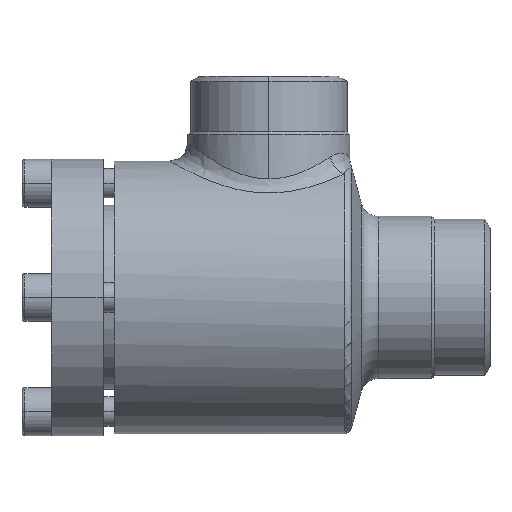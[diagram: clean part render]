
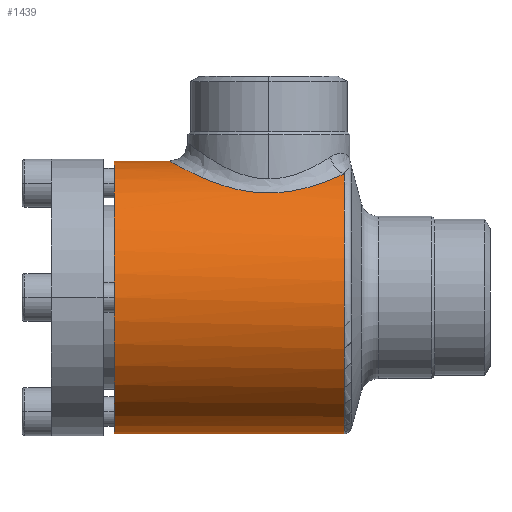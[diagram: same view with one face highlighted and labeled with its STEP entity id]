
A CAD part, left-side view. The second image highlights one B-rep face of the part: STEP entity #1439.
In plain terms, the highlighted cylindrical face has radius 37 mm (diameter 74 mm), a partial arc.
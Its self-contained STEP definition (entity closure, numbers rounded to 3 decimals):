
#35 = VERTEX_POINT ( 'NONE', #5521 ) ;
#451 = ORIENTED_EDGE ( 'NONE', *, *, #3434, .F. ) ;
#1221 = EDGE_LOOP ( 'NONE', ( #451, #8775, #2946, #2060, #1624 ) ) ;
#1439 = ADVANCED_FACE ( 'NONE', ( #9274 ), #9275, .T. ) ;
#1624 = ORIENTED_EDGE ( 'NONE', *, *, #5090, .F. ) ;
#2060 = ORIENTED_EDGE ( 'NONE', *, *, #11755, .T. ) ;
#2610 = EDGE_CURVE ( 'NONE', #8264, #11556, #5012, .T. ) ;
#2946 = ORIENTED_EDGE ( 'NONE', *, *, #2610, .T. ) ;
#3229 = VERTEX_POINT ( 'NONE', #6336 ) ;
#3434 = EDGE_CURVE ( 'NONE', #5914, #3229, #9108, .T. ) ;
#5012 = B_SPLINE_CURVE_WITH_KNOTS ( 'NONE', 3,
 ( #5013, #5014, #5015, #5016, #5017, #5020, #5021, #5022, #5023, #5024, #5025, #5026, #5027, #5028, #5029, #5030, #5031, #5032, #5033, #5034, #5035, #5039, #5040, #5041, #5042, #5043, #5044, #5045, #5046, #5047, #5048, #5049, #5050, #5051, #5052, #5053, #5054, #5058, #5059, #5060, #5061, #5062, #5063, #5064, #5065, #5066, #5067, #5068 ),
 .UNSPECIFIED., .F., .F.,
 ( 4, 2, 2, 2, 2, 2, 2, 2, 2, 2, 2, 2, 2, 2, 2, 2, 2, 2, 2, 2, 2, 2, 2, 4 ),
 ( 0., 0.004, 0.008, 0.01, 0.012, 0.016, 0.018, 0.02, 0.024, 0.026, 0.028, 0.03, 0.032, 0.036, 0.04, 0.042, 0.044, 0.048, 0.05, 0.052, 0.056, 0.058, 0.06, 0.064 ),
 .UNSPECIFIED. ) ;
#5013 = CARTESIAN_POINT ( 'NONE',  ( -15.535, -62.446, 33.581 ) ) ;
#5014 = CARTESIAN_POINT ( 'NONE',  ( -16.452, -61.548, 33.157 ) ) ;
#5015 = CARTESIAN_POINT ( 'NONE',  ( -17.286, -60.594, 32.725 ) ) ;
#5016 = CARTESIAN_POINT ( 'NONE',  ( -18.811, -58.577, 31.873 ) ) ;
#5017 = CARTESIAN_POINT ( 'NONE',  ( -19.502, -57.514, 31.452 ) ) ;
#5020 = CARTESIAN_POINT ( 'NONE',  ( -20.434, -55.835, 30.848 ) ) ;
#5021 = CARTESIAN_POINT ( 'NONE',  ( -20.728, -55.259, 30.65 ) ) ;
#5022 = CARTESIAN_POINT ( 'NONE',  ( -21.277, -54.088, 30.272 ) ) ;
#5023 = CARTESIAN_POINT ( 'NONE',  ( -21.531, -53.494, 30.092 ) ) ;
#5024 = CARTESIAN_POINT ( 'NONE',  ( -22.233, -51.685, 29.581 ) ) ;
#5025 = CARTESIAN_POINT ( 'NONE',  ( -22.624, -50.442, 29.28 ) ) ;
#5026 = CARTESIAN_POINT ( 'NONE',  ( -23.09, -48.518, 28.912 ) ) ;
#5027 = CARTESIAN_POINT ( 'NONE',  ( -23.225, -47.864, 28.803 ) ) ;
#5028 = CARTESIAN_POINT ( 'NONE',  ( -23.453, -46.548, 28.618 ) ) ;
#5029 = CARTESIAN_POINT ( 'NONE',  ( -23.545, -45.887, 28.542 ) ) ;
#5030 = CARTESIAN_POINT ( 'NONE',  ( -23.756, -43.897, 28.367 ) ) ;
#5031 = CARTESIAN_POINT ( 'NONE',  ( -23.81, -42.56, 28.321 ) ) ;
#5032 = CARTESIAN_POINT ( 'NONE',  ( -23.758, -40.538, 28.365 ) ) ;
#5033 = CARTESIAN_POINT ( 'NONE',  ( -23.718, -39.862, 28.398 ) ) ;
#5034 = CARTESIAN_POINT ( 'NONE',  ( -23.596, -38.528, 28.5 ) ) ;
#5035 = CARTESIAN_POINT ( 'NONE',  ( -23.513, -37.867, 28.569 ) ) ;
#5039 = CARTESIAN_POINT ( 'NONE',  ( -23.304, -36.555, 28.739 ) ) ;
#5040 = CARTESIAN_POINT ( 'NONE',  ( -23.179, -35.905, 28.84 ) ) ;
#5041 = CARTESIAN_POINT ( 'NONE',  ( -22.886, -34.615, 29.073 ) ) ;
#5042 = CARTESIAN_POINT ( 'NONE',  ( -22.718, -33.974, 29.205 ) ) ;
#5043 = CARTESIAN_POINT ( 'NONE',  ( -22.153, -32.08, 29.639 ) ) ;
#5044 = CARTESIAN_POINT ( 'NONE',  ( -21.7, -30.866, 29.975 ) ) ;
#5045 = CARTESIAN_POINT ( 'NONE',  ( -20.645, -28.526, 30.712 ) ) ;
#5046 = CARTESIAN_POINT ( 'NONE',  ( -20.043, -27.4, 31.112 ) ) ;
#5047 = CARTESIAN_POINT ( 'NONE',  ( -19.02, -25.773, 31.74 ) ) ;
#5048 = CARTESIAN_POINT ( 'NONE',  ( -18.66, -25.243, 31.953 ) ) ;
#5049 = CARTESIAN_POINT ( 'NONE',  ( -17.908, -24.217, 32.381 ) ) ;
#5050 = CARTESIAN_POINT ( 'NONE',  ( -17.515, -23.72, 32.595 ) ) ;
#5051 = CARTESIAN_POINT ( 'NONE',  ( -16.284, -22.274, 33.237 ) ) ;
#5052 = CARTESIAN_POINT ( 'NONE',  ( -15.395, -21.372, 33.662 ) ) ;
#5053 = CARTESIAN_POINT ( 'NONE',  ( -13.943, -20.115, 34.276 ) ) ;
#5054 = CARTESIAN_POINT ( 'NONE',  ( -13.437, -19.71, 34.478 ) ) ;
#5058 = CARTESIAN_POINT ( 'NONE',  ( -12.398, -18.947, 34.865 ) ) ;
#5059 = CARTESIAN_POINT ( 'NONE',  ( -11.864, -18.588, 35.051 ) ) ;
#5060 = CARTESIAN_POINT ( 'NONE',  ( -10.215, -17.575, 35.581 ) ) ;
#5061 = CARTESIAN_POINT ( 'NONE',  ( -9.054, -16.989, 35.897 ) ) ;
#5062 = CARTESIAN_POINT ( 'NONE',  ( -7.207, -16.258, 36.297 ) ) ;
#5063 = CARTESIAN_POINT ( 'NONE',  ( -6.575, -16.041, 36.417 ) ) ;
#5064 = CARTESIAN_POINT ( 'NONE',  ( -5.29, -15.666, 36.626 ) ) ;
#5065 = CARTESIAN_POINT ( 'NONE',  ( -4.64, -15.508, 36.714 ) ) ;
#5066 = CARTESIAN_POINT ( 'NONE',  ( -2.677, -15.129, 36.926 ) ) ;
#5067 = CARTESIAN_POINT ( 'NONE',  ( -1.349, -15., 37. ) ) ;
#5068 = CARTESIAN_POINT ( 'NONE',  ( 0., -15., 37. ) ) ;
#5090 = EDGE_CURVE ( 'NONE', #3229, #35, #6050, .T. ) ;
#5521 = CARTESIAN_POINT ( 'NONE',  ( 0., 0., 37. ) ) ;
#5527 = CARTESIAN_POINT ( 'NONE',  ( -15.535, -62.446, 33.581 ) ) ;
#5627 = CIRCLE ( 'NONE', #5628, 37. ) ;
#5628 = AXIS2_PLACEMENT_3D ( 'NONE', #5629, #5631, #5632 ) ;
#5629 = CARTESIAN_POINT ( 'NONE',  ( 0., -62.446, 0. ) ) ;
#5631 = DIRECTION ( 'NONE',  ( 0., 1., 0. ) ) ;
#5632 = DIRECTION ( 'NONE',  ( 0., 0., -1. ) ) ;
#5914 = VERTEX_POINT ( 'NONE', #9785 ) ;
#6050 = CIRCLE ( 'NONE', #6051, 37. ) ;
#6051 = AXIS2_PLACEMENT_3D ( 'NONE', #6052, #6053, #6054 ) ;
#6052 = CARTESIAN_POINT ( 'NONE',  ( 0., 0., 0. ) ) ;
#6053 = DIRECTION ( 'NONE',  ( 0., 1., 0. ) ) ;
#6054 = DIRECTION ( 'NONE',  ( 0., 0., 1. ) ) ;
#6336 = CARTESIAN_POINT ( 'NONE',  ( 0., 0., -37. ) ) ;
#6430 = CARTESIAN_POINT ( 'NONE',  ( 0., -15., 37. ) ) ;
#8264 = VERTEX_POINT ( 'NONE', #5527 ) ;
#8467 = EDGE_CURVE ( 'NONE', #5914, #8264, #5627, .T. ) ;
#8775 = ORIENTED_EDGE ( 'NONE', *, *, #8467, .T. ) ;
#9108 = LINE ( 'NONE', #9109, #9110 ) ;
#9109 = CARTESIAN_POINT ( 'NONE',  ( 0., -68., -37. ) ) ;
#9110 = VECTOR ( 'NONE', #9113, 1000. ) ;
#9113 = DIRECTION ( 'NONE',  ( 0., 1., 0. ) ) ;
#9170 = LINE ( 'NONE', #9171, #9172 ) ;
#9171 = CARTESIAN_POINT ( 'NONE',  ( 0., -68., 37. ) ) ;
#9172 = VECTOR ( 'NONE', #9173, 1000. ) ;
#9173 = DIRECTION ( 'NONE',  ( 0., 1., 0. ) ) ;
#9274 = FACE_OUTER_BOUND ( 'NONE', #1221, .T. ) ;
#9275 = CYLINDRICAL_SURFACE ( 'NONE', #9276, 37. ) ;
#9276 = AXIS2_PLACEMENT_3D ( 'NONE', #9277, #9280, #9281 ) ;
#9277 = CARTESIAN_POINT ( 'NONE',  ( 0., -68., 0. ) ) ;
#9280 = DIRECTION ( 'NONE',  ( 0., 1., 0. ) ) ;
#9281 = DIRECTION ( 'NONE',  ( 0., 0., 1. ) ) ;
#9785 = CARTESIAN_POINT ( 'NONE',  ( 0., -62.446, -37. ) ) ;
#11556 = VERTEX_POINT ( 'NONE', #6430 ) ;
#11755 = EDGE_CURVE ( 'NONE', #11556, #35, #9170, .T. ) ;
